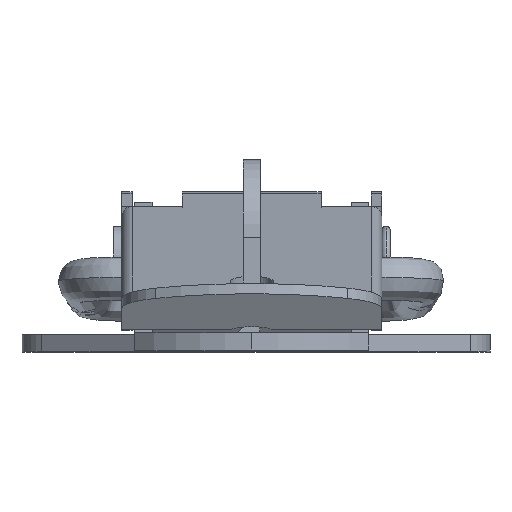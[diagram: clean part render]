
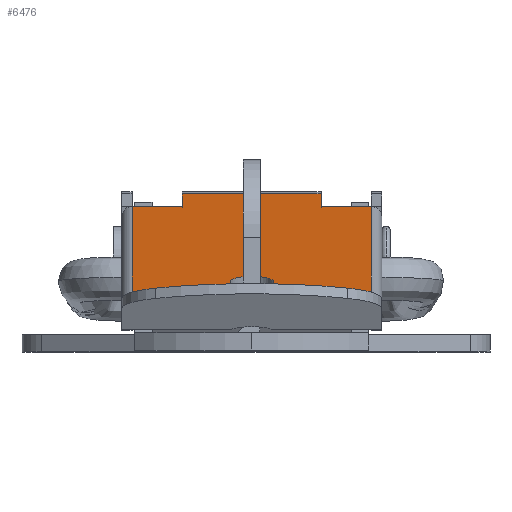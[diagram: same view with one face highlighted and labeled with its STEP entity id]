
A CAD part, top view. The second image highlights one B-rep face of the part: STEP entity #6476.
In plain terms, the highlighted planar face has unit normal (0, 0.968, 0.252) as drawn and (0, 1, 0) by its records, which use the part's own axes.
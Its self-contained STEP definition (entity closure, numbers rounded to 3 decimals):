
#32 = ORIENTED_EDGE ( 'NONE', *, *, #1317, .F. ) ;
#42 = ORIENTED_EDGE ( 'NONE', *, *, #2265, .F. ) ;
#67 = ORIENTED_EDGE ( 'NONE', *, *, #2783, .F. ) ;
#154 = ORIENTED_EDGE ( 'NONE', *, *, #6487, .T. ) ;
#199 = ORIENTED_EDGE ( 'NONE', *, *, #6747, .T. ) ;
#232 = ORIENTED_EDGE ( 'NONE', *, *, #2315, .F. ) ;
#294 = VECTOR ( 'NONE', #675, 1000. ) ;
#295 = DIRECTION ( 'NONE',  ( 0., 0., -1. ) ) ;
#325 = CARTESIAN_POINT ( 'NONE',  ( 3.5, 4., 2.892 ) ) ;
#362 = AXIS2_PLACEMENT_3D ( 'NONE', #6896, #3707, #388 ) ;
#366 = VERTEX_POINT ( 'NONE', #1619 ) ;
#377 = CARTESIAN_POINT ( 'NONE',  ( 0.61, 4., 28.892 ) ) ;
#386 = ORIENTED_EDGE ( 'NONE', *, *, #865, .T. ) ;
#387 = EDGE_CURVE ( 'NONE', #642, #366, #4572, .T. ) ;
#388 = DIRECTION ( 'NONE',  ( 0., 0., -1. ) ) ;
#395 = LINE ( 'NONE', #3419, #294 ) ;
#398 = CARTESIAN_POINT ( 'NONE',  ( 3.5, 4., 0. ) ) ;
#399 = ORIENTED_EDGE ( 'NONE', *, *, #3540, .T. ) ;
#411 = CARTESIAN_POINT ( 'NONE',  ( 0.61, 4., 2.892 ) ) ;
#440 = ORIENTED_EDGE ( 'NONE', *, *, #6393, .T. ) ;
#465 = FACE_OUTER_BOUND ( 'NONE', #910, .T. ) ;
#529 = EDGE_CURVE ( 'NONE', #4711, #366, #3405, .T. ) ;
#572 = CIRCLE ( 'NONE', #5217, 1.25 ) ;
#584 = VECTOR ( 'NONE', #1299, 1000. ) ;
#642 = VERTEX_POINT ( 'NONE', #6100 ) ;
#648 = CARTESIAN_POINT ( 'NONE',  ( 15., 4., 0. ) ) ;
#675 = DIRECTION ( 'NONE',  ( 0., 0., 1. ) ) ;
#676 = LINE ( 'NONE', #2216, #584 ) ;
#794 = ORIENTED_EDGE ( 'NONE', *, *, #387, .F. ) ;
#810 = ORIENTED_EDGE ( 'NONE', *, *, #529, .T. ) ;
#819 = ORIENTED_EDGE ( 'NONE', *, *, #6349, .T. ) ;
#858 = ORIENTED_EDGE ( 'NONE', *, *, #1173, .T. ) ;
#865 = EDGE_CURVE ( 'NONE', #1263, #3461, #1436, .T. ) ;
#866 = VERTEX_POINT ( 'NONE', #3632 ) ;
#871 = ORIENTED_EDGE ( 'NONE', *, *, #2875, .T. ) ;
#910 = EDGE_LOOP ( 'NONE', ( #199, #399, #440, #386, #154, #858, #232, #810, #794, #819, #871, #67, #32, #6986, #42 ) ) ;
#965 = DIRECTION ( 'NONE',  ( 1., 0., 0. ) ) ;
#1137 = CARTESIAN_POINT ( 'NONE',  ( 3.5, 4., 2.892 ) ) ;
#1173 = EDGE_CURVE ( 'NONE', #866, #2281, #6216, .T. ) ;
#1263 = VERTEX_POINT ( 'NONE', #1787 ) ;
#1299 = DIRECTION ( 'NONE',  ( 0., 0., -1. ) ) ;
#1317 = EDGE_CURVE ( 'NONE', #1429, #5601, #3793, .T. ) ;
#1429 = VERTEX_POINT ( 'NONE', #411 ) ;
#1436 = CIRCLE ( 'NONE', #4269, 1.25 ) ;
#1437 = VERTEX_POINT ( 'NONE', #398 ) ;
#1489 = VERTEX_POINT ( 'NONE', #6923 ) ;
#1528 = CARTESIAN_POINT ( 'NONE',  ( 11.5, 4., 2.892 ) ) ;
#1574 = AXIS2_PLACEMENT_3D ( 'NONE', #1736, #1728, #1663 ) ;
#1619 = CARTESIAN_POINT ( 'NONE',  ( 14.39, 4., 2.892 ) ) ;
#1663 = DIRECTION ( 'NONE',  ( 0., 0., -1. ) ) ;
#1728 = DIRECTION ( 'NONE',  ( 0., -1., 0. ) ) ;
#1736 = CARTESIAN_POINT ( 'NONE',  ( 7.5, 4., 28.75 ) ) ;
#1763 = EDGE_CURVE ( 'NONE', #1429, #2746, #7014, .T. ) ;
#1787 = CARTESIAN_POINT ( 'NONE',  ( 7.5, 4., 19. ) ) ;
#1795 = VERTEX_POINT ( 'NONE', #5792 ) ;
#1837 = DIRECTION ( 'NONE',  ( 1., 0., 0. ) ) ;
#2216 = CARTESIAN_POINT ( 'NONE',  ( 11.5, 4., 0. ) ) ;
#2233 = DIRECTION ( 'NONE',  ( 0., -1., 0. ) ) ;
#2265 = EDGE_CURVE ( 'NONE', #2984, #2746, #6413, .T. ) ;
#2281 = VERTEX_POINT ( 'NONE', #2943 ) ;
#2315 = EDGE_CURVE ( 'NONE', #4711, #2281, #6316, .T. ) ;
#2333 = DIRECTION ( 'NONE',  ( 0., 0., -1. ) ) ;
#2347 = VERTEX_POINT ( 'NONE', #2674 ) ;
#2674 = CARTESIAN_POINT ( 'NONE',  ( 6.25, 4., 20.25 ) ) ;
#2700 = DIRECTION ( 'NONE',  ( -1., 0., 0. ) ) ;
#2746 = VERTEX_POINT ( 'NONE', #377 ) ;
#2777 = CARTESIAN_POINT ( 'NONE',  ( 15., 4., 28.892 ) ) ;
#2783 = EDGE_CURVE ( 'NONE', #5601, #1437, #5847, .T. ) ;
#2875 = EDGE_CURVE ( 'NONE', #1795, #1437, #5679, .T. ) ;
#2936 = DIRECTION ( 'NONE',  ( -1., 0., 0. ) ) ;
#2943 = CARTESIAN_POINT ( 'NONE',  ( 8.742, 4., 28.892 ) ) ;
#2984 = VERTEX_POINT ( 'NONE', #5499 ) ;
#2991 = DIRECTION ( 'NONE',  ( 0., 0., -1. ) ) ;
#2999 = CARTESIAN_POINT ( 'NONE',  ( 15., 4., 28.892 ) ) ;
#3058 = VECTOR ( 'NONE', #6973, 1000. ) ;
#3405 = LINE ( 'NONE', #6853, #3058 ) ;
#3419 = CARTESIAN_POINT ( 'NONE',  ( 8.75, 4., 0. ) ) ;
#3461 = VERTEX_POINT ( 'NONE', #3840 ) ;
#3464 = DIRECTION ( 'NONE',  ( 0., 0., -1. ) ) ;
#3475 = DIRECTION ( 'NONE',  ( 0., -1., 0. ) ) ;
#3487 = CARTESIAN_POINT ( 'NONE',  ( 7.5, 4., 20.25 ) ) ;
#3497 = CARTESIAN_POINT ( 'NONE',  ( 15., 4., 0. ) ) ;
#3540 = EDGE_CURVE ( 'NONE', #1489, #2347, #4650, .T. ) ;
#3632 = CARTESIAN_POINT ( 'NONE',  ( 8.75, 4., 28.75 ) ) ;
#3642 = DIRECTION ( 'NONE',  ( -1., 0., 0. ) ) ;
#3707 = DIRECTION ( 'NONE',  ( 0., -1., 0. ) ) ;
#3718 = VECTOR ( 'NONE', #965, 1000. ) ;
#3793 = LINE ( 'NONE', #1137, #3718 ) ;
#3840 = CARTESIAN_POINT ( 'NONE',  ( 8.75, 4., 20.25 ) ) ;
#3966 = AXIS2_PLACEMENT_3D ( 'NONE', #648, #5591, #2333 ) ;
#4269 = AXIS2_PLACEMENT_3D ( 'NONE', #3487, #3475, #3464 ) ;
#4292 = CARTESIAN_POINT ( 'NONE',  ( 3.5, 4., 2.892 ) ) ;
#4318 = VECTOR ( 'NONE', #1837, 1000. ) ;
#4572 = LINE ( 'NONE', #1528, #4318 ) ;
#4595 = CARTESIAN_POINT ( 'NONE',  ( 6.25, 4., 0. ) ) ;
#4633 = VECTOR ( 'NONE', #2991, 1000. ) ;
#4650 = LINE ( 'NONE', #4595, #4633 ) ;
#4711 = VERTEX_POINT ( 'NONE', #6179 ) ;
#5056 = PLANE ( 'NONE',  #3966 ) ;
#5217 = AXIS2_PLACEMENT_3D ( 'NONE', #5493, #2233, #5991 ) ;
#5493 = CARTESIAN_POINT ( 'NONE',  ( 7.5, 4., 20.25 ) ) ;
#5499 = CARTESIAN_POINT ( 'NONE',  ( 6.258, 4., 28.892 ) ) ;
#5591 = DIRECTION ( 'NONE',  ( 0., -1., 0. ) ) ;
#5601 = VERTEX_POINT ( 'NONE', #4292 ) ;
#5633 = VECTOR ( 'NONE', #3642, 1000. ) ;
#5679 = LINE ( 'NONE', #3497, #5633 ) ;
#5769 = VECTOR ( 'NONE', #295, 1000. ) ;
#5792 = CARTESIAN_POINT ( 'NONE',  ( 11.5, 4., 0. ) ) ;
#5847 = LINE ( 'NONE', #325, #5769 ) ;
#5952 = CARTESIAN_POINT ( 'NONE',  ( 0.61, 4., 2.892 ) ) ;
#5991 = DIRECTION ( 'NONE',  ( 0., 0., -1. ) ) ;
#6100 = CARTESIAN_POINT ( 'NONE',  ( 11.5, 4., 2.892 ) ) ;
#6107 = DIRECTION ( 'NONE',  ( 0., 0., 1. ) ) ;
#6179 = CARTESIAN_POINT ( 'NONE',  ( 14.39, 4., 28.892 ) ) ;
#6216 = CIRCLE ( 'NONE', #1574, 1.25 ) ;
#6301 = VECTOR ( 'NONE', #2700, 1000. ) ;
#6316 = LINE ( 'NONE', #2777, #6301 ) ;
#6349 = EDGE_CURVE ( 'NONE', #642, #1795, #676, .T. ) ;
#6380 = VECTOR ( 'NONE', #2936, 1000. ) ;
#6393 = EDGE_CURVE ( 'NONE', #2347, #1263, #572, .T. ) ;
#6413 = LINE ( 'NONE', #2999, #6380 ) ;
#6476 = ADVANCED_FACE ( 'NONE', ( #465 ), #5056, .F. ) ;
#6487 = EDGE_CURVE ( 'NONE', #3461, #866, #395, .T. ) ;
#6516 = CIRCLE ( 'NONE', #362, 1.25 ) ;
#6747 = EDGE_CURVE ( 'NONE', #2984, #1489, #6516, .T. ) ;
#6853 = CARTESIAN_POINT ( 'NONE',  ( 14.39, 4., 28.892 ) ) ;
#6896 = CARTESIAN_POINT ( 'NONE',  ( 7.5, 4., 28.75 ) ) ;
#6923 = CARTESIAN_POINT ( 'NONE',  ( 6.25, 4., 28.75 ) ) ;
#6973 = DIRECTION ( 'NONE',  ( 0., 0., -1. ) ) ;
#6986 = ORIENTED_EDGE ( 'NONE', *, *, #1763, .T. ) ;
#6996 = VECTOR ( 'NONE', #6107, 1000. ) ;
#7014 = LINE ( 'NONE', #5952, #6996 ) ;
